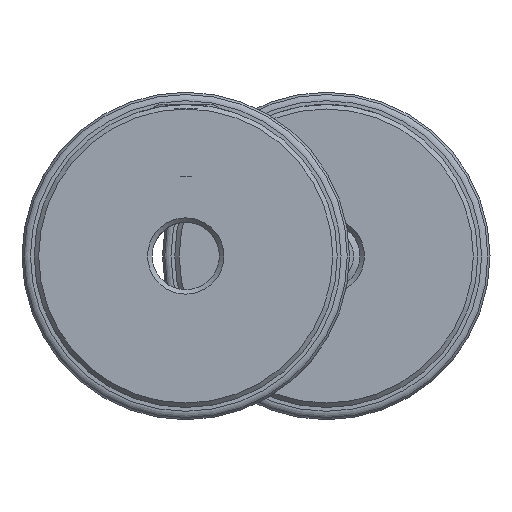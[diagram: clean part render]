
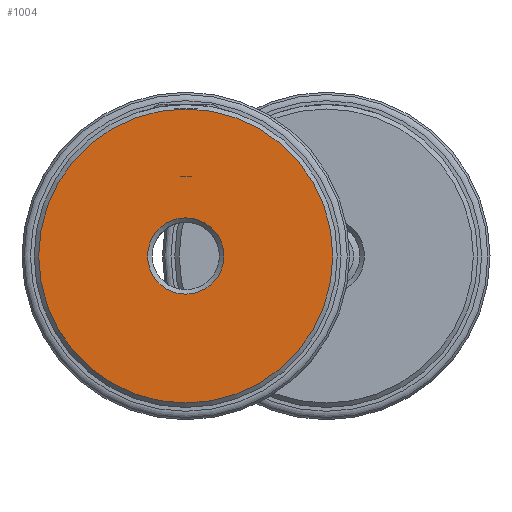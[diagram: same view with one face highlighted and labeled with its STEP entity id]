
A CAD part, left-side view. The second image highlights one B-rep face of the part: STEP entity #1004.
In plain terms, the highlighted planar face has unit normal (-1, 0, 0).
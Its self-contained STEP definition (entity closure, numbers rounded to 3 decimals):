
#1004 = ADVANCED_FACE( 'NONE', ( #1517, #1518 ), #1519, .F. );
#1517 = FACE_OUTER_BOUND( '', #1738, .T. );
#1518 = FACE_BOUND( '', #1739, .T. );
#1519 = PLANE( '', #1740 );
#1738 = EDGE_LOOP( '', ( #2049 ) );
#1739 = EDGE_LOOP( '', ( #2050 ) );
#1740 = AXIS2_PLACEMENT_3D( '', #2051, #2052, #2053 );
#2049 = ORIENTED_EDGE( '', *, *, #2408, .T. );
#2050 = ORIENTED_EDGE( '', *, *, #2409, .T. );
#2051 = CARTESIAN_POINT( '', ( 0., 1.5, 0. ) );
#2052 = DIRECTION( '', ( 1., 0., 0. ) );
#2053 = DIRECTION( '', ( 0., 1., 0. ) );
#2408 = EDGE_CURVE( 'NONE', #2691, #2691, #2692, .F. );
#2409 = EDGE_CURVE( 'NONE', #2693, #2693, #2694, .T. );
#2691 = VERTEX_POINT( '', #2802 );
#2692 = CIRCLE( '', #2803, 6.55 );
#2693 = VERTEX_POINT( '', #2804 );
#2694 = CIRCLE( '', #2805, 1.7 );
#2802 = CARTESIAN_POINT( '', ( 0., 0., -6.55 ) );
#2803 = AXIS2_PLACEMENT_3D( '', #2887, #2888, #2889 );
#2804 = CARTESIAN_POINT( '', ( 0., 0., -1.7 ) );
#2805 = AXIS2_PLACEMENT_3D( '', #2890, #2891, #2892 );
#2887 = CARTESIAN_POINT( '', ( 0., 0., 0. ) );
#2888 = DIRECTION( '', ( 1., 0., 0. ) );
#2889 = DIRECTION( '', ( 0., 0., -1. ) );
#2890 = CARTESIAN_POINT( '', ( 0., 0., 0. ) );
#2891 = DIRECTION( '', ( 1., 0., 0. ) );
#2892 = DIRECTION( '', ( 0., 0., -1. ) );
